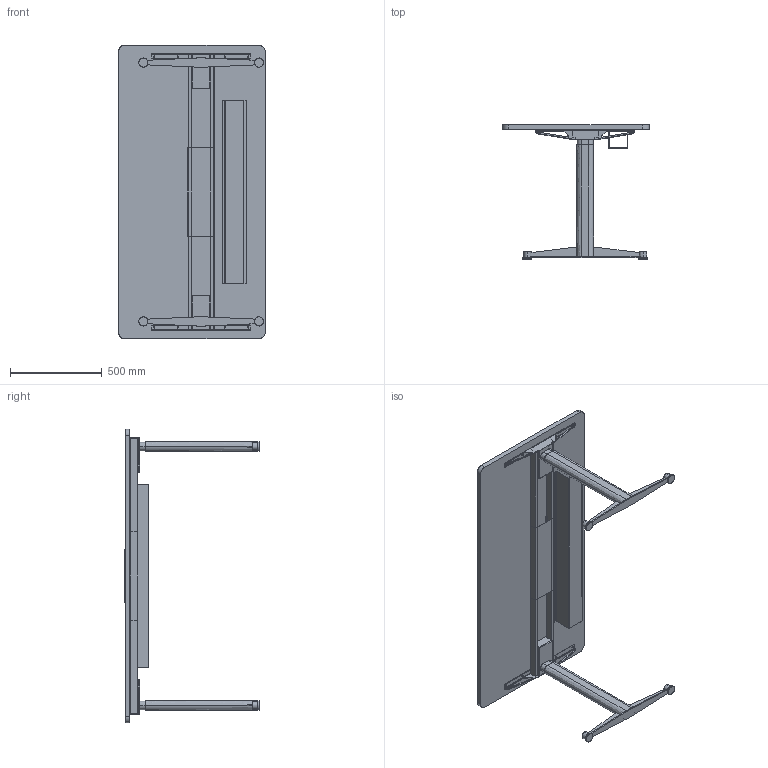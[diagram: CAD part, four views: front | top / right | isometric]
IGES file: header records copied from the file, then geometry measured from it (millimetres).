
Start section: SolidWorks IGES file using analytic representation for surfaces
Global section: file name: C:\Users\simone.cerana\OneDrive - Gruppo Tecno\Desktop\CHINA\DISEGNI DI SERIE\ASSIEMI LISTINO\AXIS LISTINO\FULL OPT\AX1608FO.IGS; native system: SolidWorks 2024; preprocessor: SolidWorks 2024; author: simone.cerana; date: 260512.111913; units: millimetre
Bounding box: 800 x 730.14 x 1600 mm (x, y, z)
Surface area: 4408491.2 mm2 (no closed solid volume)
Topology: 0 solids, 0 shells, 330 faces, 4480 edges, 4476 vertices
Faces by surface type: bspline 194, revolution 136
